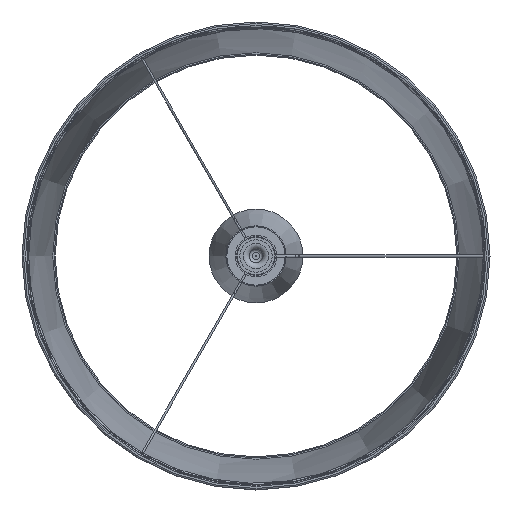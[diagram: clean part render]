
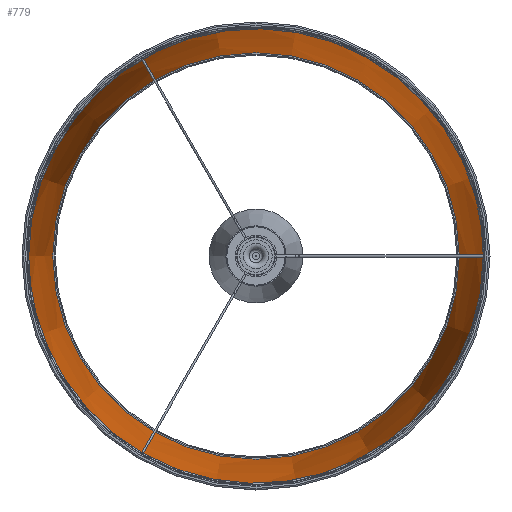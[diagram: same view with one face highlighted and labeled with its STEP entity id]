
A CAD part, front view. The second image highlights one B-rep face of the part: STEP entity #779.
In plain terms, the highlighted conical face has half-angle 5.102 degrees and reference radius 220.02 mm.
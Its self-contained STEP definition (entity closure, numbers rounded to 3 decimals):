
#15=CONICAL_SURFACE('',#891,220.02,0.089);
#133=FACE_OUTER_BOUND('',#203,.T.);
#203=EDGE_LOOP('',(#604,#605,#606,#607));
#253=LINE('',#2109,#274);
#274=VECTOR('',#1090,225.);
#308=CIRCLE('',#885,219.709);
#312=CIRCLE('',#892,195.337);
#385=VERTEX_POINT('',#2097);
#388=VERTEX_POINT('',#2108);
#463=EDGE_CURVE('',#385,#385,#308,.T.);
#467=EDGE_CURVE('',#385,#388,#253,.T.);
#468=EDGE_CURVE('',#388,#388,#312,.T.);
#604=ORIENTED_EDGE('',*,*,#463,.T.);
#605=ORIENTED_EDGE('',*,*,#467,.T.);
#606=ORIENTED_EDGE('',*,*,#468,.T.);
#607=ORIENTED_EDGE('',*,*,#467,.F.);
#779=ADVANCED_FACE('',(#133),#15,.F.);
#885=AXIS2_PLACEMENT_3D('',#2099,#1076,#1077);
#891=AXIS2_PLACEMENT_3D('',#2107,#1088,#1089);
#892=AXIS2_PLACEMENT_3D('',#2110,#1091,#1092);
#1076=DIRECTION('center_axis',(0.,-1.,0.));
#1077=DIRECTION('ref_axis',(1.,0.,0.));
#1088=DIRECTION('center_axis',(0.,-1.,0.));
#1089=DIRECTION('ref_axis',(1.,0.,0.));
#1090=DIRECTION('',(0.089,0.996,0.));
#1091=DIRECTION('center_axis',(0.,1.,0.));
#1092=DIRECTION('ref_axis',(1.,0.,0.));
#2097=CARTESIAN_POINT('',(-219.709,1203.039,0.));
#2099=CARTESIAN_POINT('Origin',(0.,1203.039,0.));
#2107=CARTESIAN_POINT('Origin',(0.,1199.555,0.));
#2108=CARTESIAN_POINT('',(-195.337,1476.,0.));
#2109=CARTESIAN_POINT('',(-220.02,1199.555,0.));
#2110=CARTESIAN_POINT('Origin',(0.,1476.,0.));
